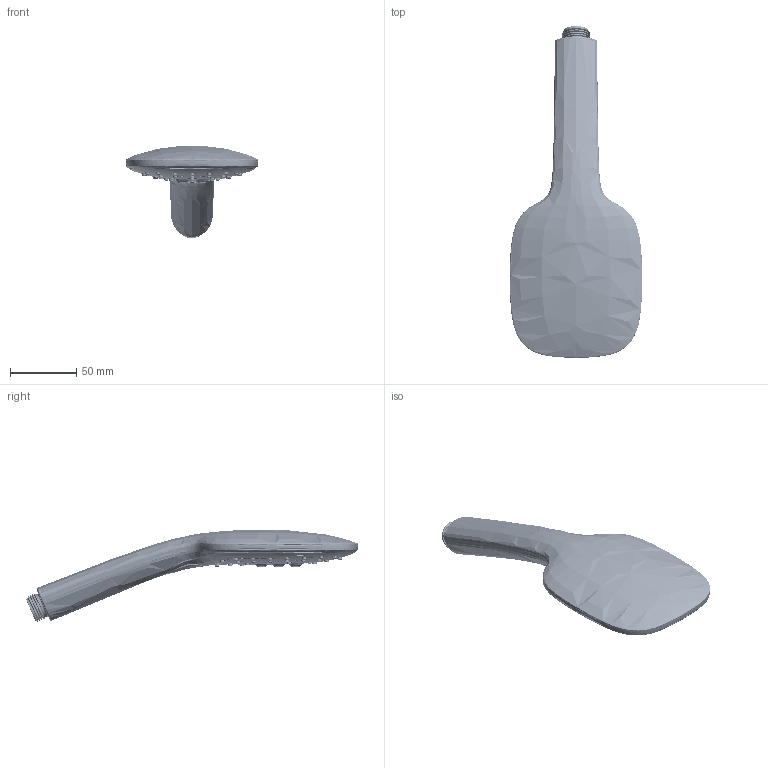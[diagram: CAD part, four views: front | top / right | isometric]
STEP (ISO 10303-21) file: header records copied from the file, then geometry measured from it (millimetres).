
FILE_DESCRIPTION((''),'2;1');
FILE_NAME('H33601-00','2023-03-16T08:38:11',('HU'),(''),'CREO PARAMETRIC BY PTC INC, 2018050','CREO PARAMETRIC BY PTC INC, 2018050','');
FILE_SCHEMA(('CONFIG_CONTROL_DESIGN'));
Products named in the file (1): H33601-00
Bounding box: 99.91 x 250.32 x 69.72 mm (x, y, z)
Volume: 241081.6 mm3; surface area: 81879.2 mm2
Topology: 3 solids, 3 shells, 3094 faces, 7881 edges, 4899 vertices
Faces by surface type: bspline 1620, cylinder 549, cone 364, plane 318, torus 150, extrusion 74, sphere 18, revolution 1
Entity records: 308060 total; most frequent: CARTESIAN_POINT 249830, ORIENTED_EDGE 15732, EDGE_CURVE 7866, DIRECTION 5850, B_SPLINE_CURVE_WITH_KNOTS 5755, VERTEX_POINT 4899, EDGE_LOOP 3447, FACE_OUTER_BOUND 3094
